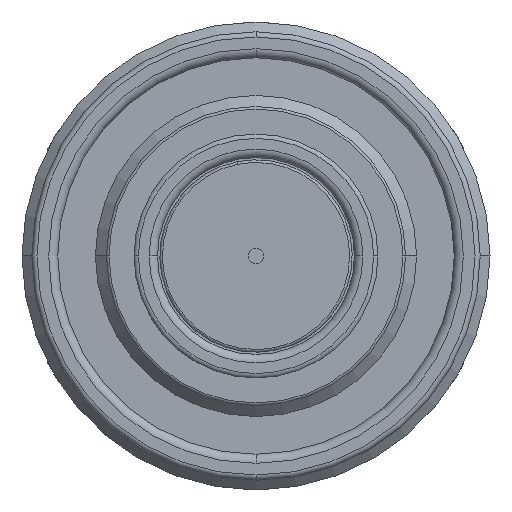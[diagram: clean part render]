
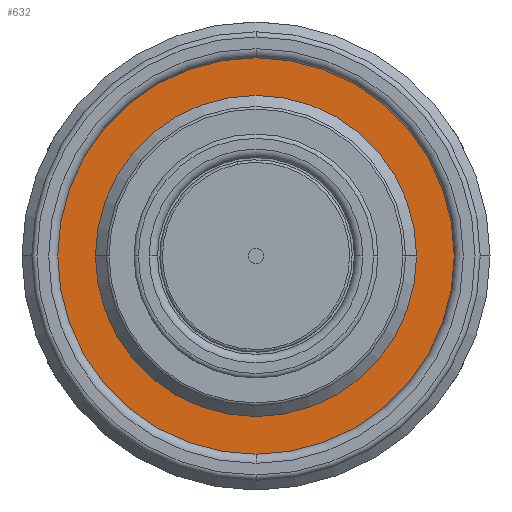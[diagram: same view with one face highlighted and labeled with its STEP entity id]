
A CAD part, front view. The second image highlights one B-rep face of the part: STEP entity #632.
In plain terms, the highlighted planar face has unit normal (0, -1, 0).
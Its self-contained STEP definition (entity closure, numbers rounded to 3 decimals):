
#282=PLANE('',#2703);
#329=FACE_BOUND('',#972,.T.);
#330=FACE_BOUND('',#973,.T.);
#632=ADVANCED_FACE('',(#329,#330),#282,.F.);
#972=EDGE_LOOP('',(#1315,#1316));
#973=EDGE_LOOP('',(#1317,#1318));
#1315=ORIENTED_EDGE('',*,*,#2157,.F.);
#1316=ORIENTED_EDGE('',*,*,#2145,.F.);
#1317=ORIENTED_EDGE('',*,*,#2141,.T.);
#1318=ORIENTED_EDGE('',*,*,#2158,.T.);
#1885=VERTEX_POINT('',#4144);
#1886=VERTEX_POINT('',#4146);
#1889=VERTEX_POINT('',#4153);
#1890=VERTEX_POINT('',#4155);
#2141=EDGE_CURVE('',#1886,#1885,#2435,.T.);
#2145=EDGE_CURVE('',#1889,#1890,#2438,.T.);
#2157=EDGE_CURVE('',#1890,#1889,#2447,.T.);
#2158=EDGE_CURVE('',#1885,#1886,#2448,.T.);
#2435=CIRCLE('',#2681,16.9);
#2438=CIRCLE('',#2685,12.35);
#2447=CIRCLE('',#2700,12.35);
#2448=CIRCLE('',#2702,16.9);
#2681=AXIS2_PLACEMENT_3D('',#4145,#3200,#3201);
#2685=AXIS2_PLACEMENT_3D('',#4154,#3209,#3210);
#2700=AXIS2_PLACEMENT_3D('',#4177,#3242,#3243);
#2702=AXIS2_PLACEMENT_3D('',#4179,#3246,#3247);
#2703=AXIS2_PLACEMENT_3D('',#4180,#3248,#3249);
#3200=DIRECTION('',(0.,-1.,0.));
#3201=DIRECTION('',(1.,0.,0.));
#3209=DIRECTION('',(0.,-1.,0.));
#3210=DIRECTION('',(1.,0.,0.));
#3242=DIRECTION('',(0.,-1.,0.));
#3243=DIRECTION('',(1.,0.,0.));
#3246=DIRECTION('',(0.,-1.,0.));
#3247=DIRECTION('',(1.,0.,0.));
#3248=DIRECTION('',(0.,1.,0.));
#3249=DIRECTION('',(-1.,0.,0.));
#4144=CARTESIAN_POINT('',(-16.9,34.3,0.));
#4145=CARTESIAN_POINT('',(0.,34.3,0.));
#4146=CARTESIAN_POINT('',(16.9,34.3,0.));
#4153=CARTESIAN_POINT('',(12.35,34.3,0.));
#4154=CARTESIAN_POINT('',(0.,34.3,0.));
#4155=CARTESIAN_POINT('',(-12.35,34.3,0.));
#4177=CARTESIAN_POINT('',(0.,34.3,0.));
#4179=CARTESIAN_POINT('',(0.,34.3,0.));
#4180=CARTESIAN_POINT('',(0.,34.3,0.));
